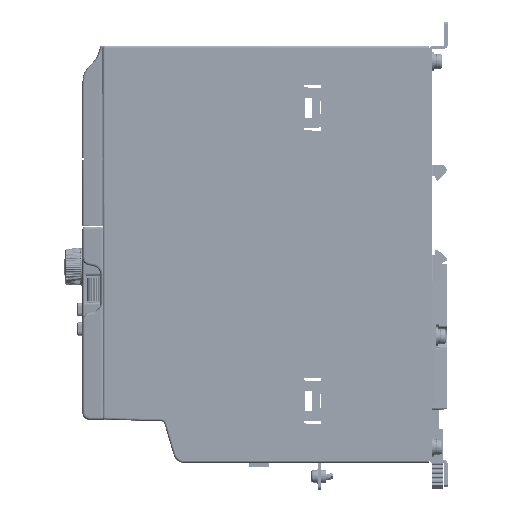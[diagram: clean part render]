
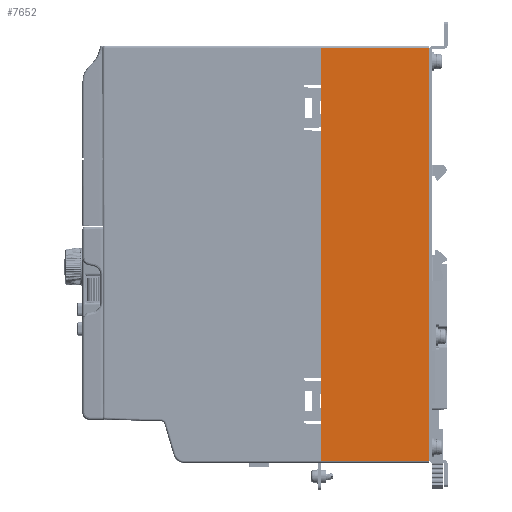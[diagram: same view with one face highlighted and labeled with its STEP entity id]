
A CAD part, left-side view. The second image highlights one B-rep face of the part: STEP entity #7652.
In plain terms, the highlighted planar face has unit normal (-1, 0, 0).
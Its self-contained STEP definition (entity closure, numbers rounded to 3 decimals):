
#1099=DIRECTION('',(0.,1.,0.));
#1100=VECTOR('',#1099,47.5);
#1101=CARTESIAN_POINT('',(-47.5,-47.5,91.5));
#1102=LINE('',#1101,#1100);
#3700=DIRECTION('',(0.,0.,-1.));
#3701=VECTOR('',#3700,183.);
#3702=CARTESIAN_POINT('',(-47.5,-47.5,91.5));
#3703=LINE('',#3702,#3701);
#3707=DIRECTION('',(0.,0.,1.));
#3708=VECTOR('',#3707,183.);
#3709=CARTESIAN_POINT('',(-47.5,0.,-91.5));
#3710=LINE('',#3709,#3708);
#3721=DIRECTION('',(0.,-1.,0.));
#3722=VECTOR('',#3721,47.5);
#3723=CARTESIAN_POINT('',(-47.5,0.,-91.5));
#3724=LINE('',#3723,#3722);
#4193=CARTESIAN_POINT('',(-47.5,-47.5,91.5));
#4195=VERTEX_POINT('',#4193);
#4197=CARTESIAN_POINT('',(-47.5,-47.5,-91.5));
#4198=VERTEX_POINT('',#4197);
#4208=CARTESIAN_POINT('',(-47.5,0.,91.5));
#4210=VERTEX_POINT('',#4208);
#4215=CARTESIAN_POINT('',(-47.5,0.,-91.5));
#4216=VERTEX_POINT('',#4215);
#7640=CARTESIAN_POINT('',(-47.5,0.,-92.5));
#7641=DIRECTION('',(-1.,0.,0.));
#7642=DIRECTION('',(0.,-1.,0.));
#7643=AXIS2_PLACEMENT_3D('',#7640,#7641,#7642);
#7644=PLANE('',#7643);
#7645=ORIENTED_EDGE('',*,*,#4996,.F.);
#7646=ORIENTED_EDGE('',*,*,#4962,.T.);
#7648=ORIENTED_EDGE('',*,*,#7647,.F.);
#7649=ORIENTED_EDGE('',*,*,#5023,.T.);
#7650=EDGE_LOOP('',(#7645,#7646,#7648,#7649));
#7651=FACE_OUTER_BOUND('',#7650,.F.);
#4962=EDGE_CURVE('',#4195,#4198,#3703,.T.);
#4996=EDGE_CURVE('',#4195,#4210,#1102,.T.);
#5023=EDGE_CURVE('',#4216,#4210,#3710,.T.);
#7647=EDGE_CURVE('',#4216,#4198,#3724,.T.);
#7652=ADVANCED_FACE('',(#7651),#7644,.T.);
